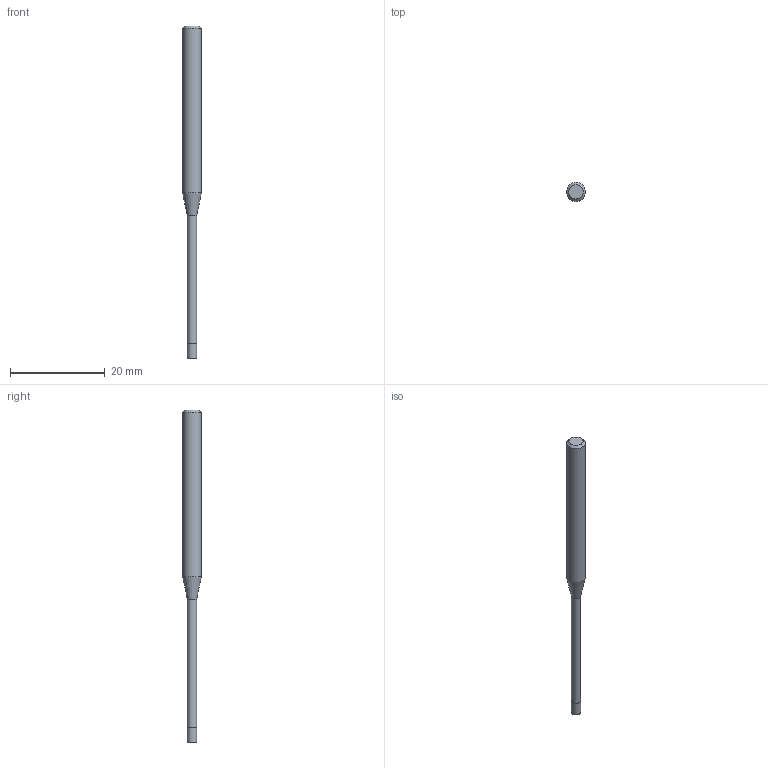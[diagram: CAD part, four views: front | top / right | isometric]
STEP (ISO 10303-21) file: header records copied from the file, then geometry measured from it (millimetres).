
FILE_DESCRIPTION((''),'2;1');
FILE_NAME('C:\Users\nsx150\AppData\Local\Temp\Mastercam 2021\17T8Q8S9EB\TEMP.step','2021-04-21T16:15:50',(''),(''),'STEP Write','Mastercam 2021 ... CNC Software, Inc.','');
FILE_SCHEMA(('AUTOMOTIVE_DESIGN'));
Length unit declared in the file: millimetre
Products named in the file (1): None
Bounding box: 4 x 4 x 70 mm (x, y, z)
Volume: 564.5 mm3; surface area: 689.2 mm2
Topology: 2 solids, 2 shells, 9 faces, 12 edges, 7 vertices
Faces by surface type: plane 4, cylinder 3, cone 2
Full cylindrical faces by diameter (mm): 1.94 x1, 2 x1, 4 x1
Entity records: 211 total; most frequent: DIRECTION 36, CARTESIAN_POINT 25, AXIS2_PLACEMENT_3D 18, ORIENTED_EDGE 14, EDGE_LOOP 14, STYLED_ITEM 12, ADVANCED_FACE 9, FACE_BOUND 8
